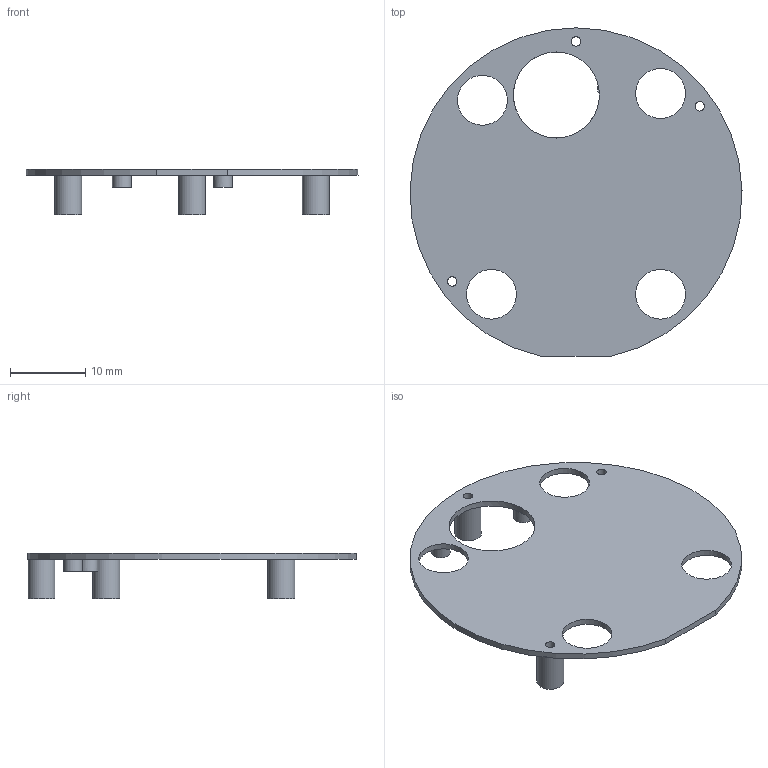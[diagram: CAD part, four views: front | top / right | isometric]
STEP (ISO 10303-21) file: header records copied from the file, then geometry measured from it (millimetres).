
FILE_DESCRIPTION(('Open CASCADE Model'),'2;1');
FILE_NAME('Open CASCADE Shape Model','2026-09-25T10:24:49',('Author'),( 'Open CASCADE'),'Open CASCADE STEP processor 7.9','Open CASCADE 7.9' ,'Unknown');
FILE_SCHEMA(('AUTOMOTIVE_DESIGN { 1 0 10303 214 1 1 1 1 }'));
Length unit declared in the file: millimetre
Products named in the file (1): Open CASCADE STEP translator 7.9 5
Bounding box: 43.99 x 43.5 x 6 mm (x, y, z)
Volume: 1166.7 mm3; surface area: 3037.5 mm2
Topology: 1 solids, 1 shells, 27 faces, 55 edges, 36 vertices
Faces by surface type: cylinder 16, plane 11
Full cylindrical faces by diameter (mm): 1.25 x3, 1.7 x2, 2.5 x2, 3.56 x3, 6.6 x4, 11.4 x1
Entity records: 1481 total; most frequent: DIRECTION 248, CARTESIAN_POINT 243, ORIENTED_EDGE 110, PCURVE 110, DEFINITIONAL_REPRESENTATION 110, LINE 85, VECTOR 85, CIRCLE 71
